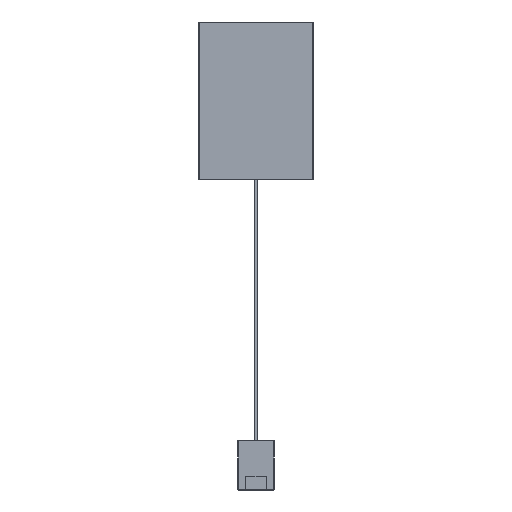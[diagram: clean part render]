
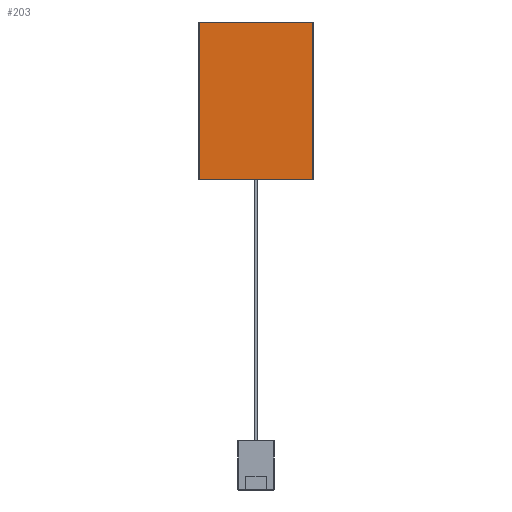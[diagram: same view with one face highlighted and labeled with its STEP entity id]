
A CAD part, left-side view. The second image highlights one B-rep face of the part: STEP entity #203.
In plain terms, the highlighted planar face has unit normal (-1, 0, 0).
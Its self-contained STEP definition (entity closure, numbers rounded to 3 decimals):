
#32=B_SPLINE_CURVE_WITH_KNOTS('',1,(#2959,#2960),.UNSPECIFIED.,.F.,.F.,
(2,2),(0.5,59.5),.UNSPECIFIED.);
#40=B_SPLINE_CURVE_WITH_KNOTS('',1,(#2975,#2976),.UNSPECIFIED.,.F.,.F.,
(2,2),(0.,59.),.UNSPECIFIED.);
#43=B_SPLINE_CURVE_WITH_KNOTS('',1,(#2981,#2982),.UNSPECIFIED.,.F.,.F.,
(2,2),(0.,81.8),.UNSPECIFIED.);
#44=B_SPLINE_CURVE_WITH_KNOTS('',1,(#2983,#2984),.UNSPECIFIED.,.F.,.F.,
(2,2),(0.2,82.),.UNSPECIFIED.);
#203=ADVANCED_FACE('',(#309),#1537,.T.);
#309=FACE_OUTER_BOUND('',#418,.T.);
#418=EDGE_LOOP('',(#632,#633,#634,#635));
#632=ORIENTED_EDGE('',*,*,#1029,.T.);
#633=ORIENTED_EDGE('',*,*,#1033,.T.);
#634=ORIENTED_EDGE('',*,*,#1021,.T.);
#635=ORIENTED_EDGE('',*,*,#1032,.T.);
#1021=EDGE_CURVE('',#1429,#1428,#32,.T.);
#1029=EDGE_CURVE('',#1436,#1437,#40,.T.);
#1032=EDGE_CURVE('',#1428,#1436,#43,.T.);
#1033=EDGE_CURVE('',#1437,#1429,#44,.T.);
#1428=VERTEX_POINT('',#2935);
#1429=VERTEX_POINT('',#2936);
#1436=VERTEX_POINT('',#2943);
#1437=VERTEX_POINT('',#2944);
#1537=PLANE('',#1769);
#1769=AXIS2_PLACEMENT_3D('',#2883,#1980,$);
#1980=DIRECTION('',(-1.,0.,0.));
#2883=CARTESIAN_POINT('',(-202.,-30.,-0.5));
#2935=CARTESIAN_POINT('',(-202.,29.5,-0.5));
#2936=CARTESIAN_POINT('',(-202.,-29.5,-0.5));
#2943=CARTESIAN_POINT('',(-202.,29.5,-82.3));
#2944=CARTESIAN_POINT('',(-202.,-29.5,-82.3));
#2959=CARTESIAN_POINT('',(-202.,-29.5,-0.5));
#2960=CARTESIAN_POINT('',(-202.,29.5,-0.5));
#2975=CARTESIAN_POINT('',(-202.,29.5,-82.3));
#2976=CARTESIAN_POINT('',(-202.,-29.5,-82.3));
#2981=CARTESIAN_POINT('',(-202.,29.5,-0.5));
#2982=CARTESIAN_POINT('',(-202.,29.5,-82.3));
#2983=CARTESIAN_POINT('',(-202.,-29.5,-82.3));
#2984=CARTESIAN_POINT('',(-202.,-29.5,-0.5));
